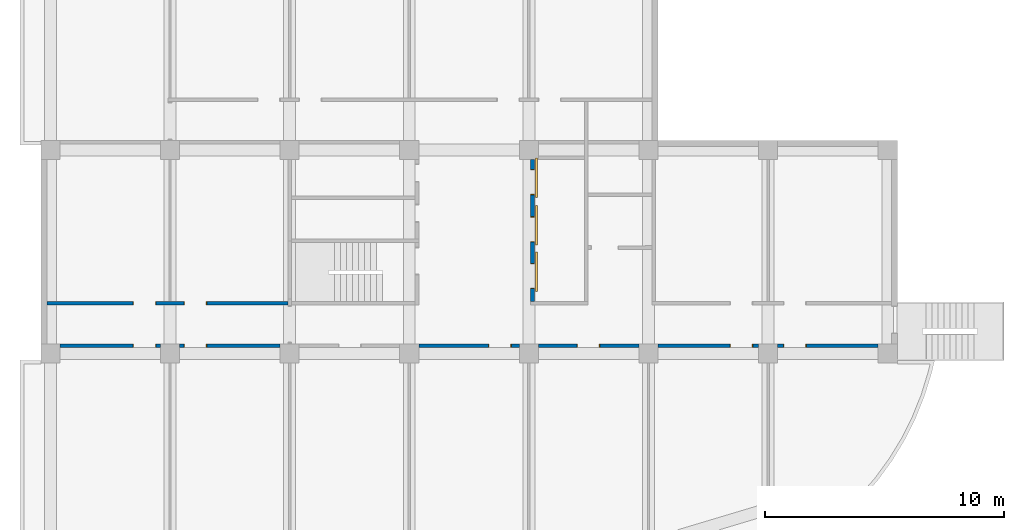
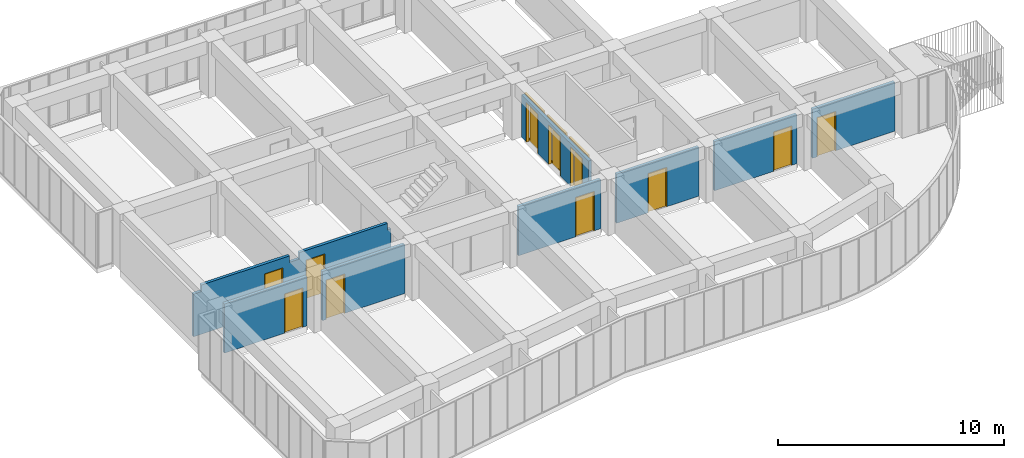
# One storey, part 3 of 5: 11 doors, 4 walls, 11 openings.
"""IFC2X3 building model written with IfcOpenShell, lengths in millimetres."""

from ifc_helpers import new_model, entity, si_unit, converted_unit, derived_unit, money_unit, direction, frame, origin_with_axes, place, context, subcontext, project, spatial, open_shell, faceted_brep, surface_model, source, transform, mapped, material, type_object, element, fill, save


model = new_model("IFC2X3")

# Units and contexts
model_context = context("Model", 3, precision=0.01, world=origin_with_axes(), true_north=direction((0.0, 1.0)))
body_context = subcontext(model_context, "Body", "Model", "MODEL_VIEW")
ifc_project = project(units=[si_unit("LENGTHUNIT", "METRE", prefix="MILLI"), si_unit("AREAUNIT", "SQUARE_METRE"), si_unit("VOLUMEUNIT", "CUBIC_METRE"), converted_unit("PLANEANGLEUNIT", "DEGREE", entity("IfcPlaneAngleMeasure", 0.0174532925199), si_unit("PLANEANGLEUNIT", "RADIAN"), dimensions=[0, 0, 0, 0, 0, 0, 0]), si_unit("SOLIDANGLEUNIT", "STERADIAN"), money_unit("JPY"), converted_unit("TIMEUNIT", "Year", entity("IfcTimeMeasure", 31556926.0), si_unit("TIMEUNIT", "SECOND"), dimensions=[0, 0, 1, 0, 0, 0, 0]), si_unit("MASSUNIT", "GRAM", prefix="KILO"), si_unit("THERMODYNAMICTEMPERATUREUNIT", "DEGREE_CELSIUS"), si_unit("LUMINOUSINTENSITYUNIT", "LUMEN"), si_unit("ENERGYUNIT", "JOULE", prefix="MEGA"), derived_unit("THERMALCONDUCTANCEUNIT", [(si_unit("POWERUNIT", "WATT"), 1), (si_unit("LENGTHUNIT", "METRE"), -1), (si_unit("THERMODYNAMICTEMPERATUREUNIT", "KELVIN"), -1)]), derived_unit("SPECIFICHEATCAPACITYUNIT", [(si_unit("ENERGYUNIT", "JOULE"), 1), (si_unit("MASSUNIT", "GRAM", prefix="KILO"), -1), (si_unit("THERMODYNAMICTEMPERATUREUNIT", "KELVIN"), -1)]), derived_unit("MASSDENSITYUNIT", [(si_unit("MASSUNIT", "GRAM", prefix="KILO"), 1), (si_unit("VOLUMEUNIT", "CUBIC_METRE"), -1)])], contexts=[model_context])

# Site, building, storey
site_placement = place(None, origin_with_axes())
site = spatial("IfcSite", under=ifc_project, at=site_placement, Name="サイト", CompositionType="ELEMENT")
building_placement = place(site_placement, origin_with_axes())
building = spatial("IfcBuilding", under=site, at=building_placement, Name="建築", CompositionType="ELEMENT")
storey_placement = place(building_placement, frame((0.0, 0.0, 9000.0), z_axis=(0.0, 0.0, 1.0), x_axis=(1.0, 0.0, 0.0)))
storey = spatial("IfcBuildingStorey", under=building, at=storey_placement, Name="4FL", CompositionType="ELEMENT", Elevation=9000.0)

# Wall, openings, doors
ifc_material = material(Name="コンクリート")
wall_type = type_object("IfcWallType", Name="コンクリート 150", PredefinedType="NOTDEFINED")
wall_1_placement = place(storey_placement, frame((-275.00006329, 2100.0, 0.0), z_axis=(0.0, 0.0, 1.0), x_axis=(1.0, 0.0, 0.0)))
wall_1 = element("IfcWall", 1, at=wall_1_placement, inside=storey, type_object=wall_type, material=ifc_material, Name="4FLW3", context=body_context, shape_type="Brep", body=[
    faceted_brep([(5860.00006329, 75.0, 2130.0), (5860.00006329, 75.0, 0.0), (4690.00006329, 75.0, 0.0), (4690.00006329, 75.0, 2130.0), (3730.00006329, 75.0, 2130.0), (3730.00006329, 75.0, 0.0), (125.0, 75.0, 0.0), (125.0, 75.0, 2300.0), (525.00006329, 75.0, 2300.0), (525.00006329, 75.0, 2650.0), (5025.00006329, 75.0, 2650.0), (5025.00006329, 75.0, 2300.0), (5525.00006329, 75.0, 2300.0), (5525.00006329, 75.0, 2650.0), (10025.0000633, 75.0, 2650.0), (10025.0000633, 75.0, 2300.0), (10200.0000633, 75.0, 2300.0), (10200.0000633, 75.0, 0.0), (6820.00006329, 75.0, 0.0), (6820.00006329, 75.0, 2130.0), (5860.00006329, -75.0, 2130.0), (5860.00006329, -75.0, 0.0), (4690.00006329, -75.0, 0.0), (4690.00006329, -75.0, 2130.0), (3730.00006329, -75.0, 2130.0), (3730.00006329, -75.0, 0.0), (125.0, -75.0, 0.0), (125.0, -75.0, 2300.0), (525.00006329, -75.0, 2300.0), (525.00006329, -75.0, 2650.0), (5025.00006329, -75.0, 2650.0), (5025.00006329, -75.0, 2300.0), (5525.00006329, -75.0, 2300.0), (5525.00006329, -75.0, 2650.0), (10025.0000633, -75.0, 2650.0), (10025.0000633, -75.0, 2300.0), (10200.0000633, -75.0, 2300.0), (10200.0000633, -75.0, 0.0), (6820.00006329, -75.0, 0.0), (6820.00006329, -75.0, 2130.0)], [[[0, 1, 2, 3, 4, 5, 6, 7, 8, 9, 10, 11, 12, 13, 14, 15, 16, 17, 18, 19]], [[1, 0, 20, 21]], [[1, 21, 22, 2]], [[2, 22, 23, 3]], [[3, 23, 24, 4]], [[4, 24, 25, 5]], [[25, 26, 6, 5]], [[7, 6, 26, 27]], [[7, 27, 28, 8]], [[9, 8, 28, 29]], [[29, 30, 10, 9]], [[10, 30, 31, 11]], [[11, 31, 32, 12]], [[13, 12, 32, 33]], [[33, 34, 14, 13]], [[14, 34, 35, 15]], [[16, 15, 35, 36]], [[36, 37, 17, 16]], [[38, 18, 17, 37]], [[19, 18, 38, 39]], [[0, 19, 39, 20]], [[39, 38, 37, 36, 35, 34, 33, 32, 31, 30, 29, 28, 27, 26, 25, 24, 23, 22, 21, 20]]]),
])
opening_1_placement = place(wall_1_placement, frame((4210.00006329, 0.0, 0.0), z_axis=(0.0, 0.0, 1.0), x_axis=(1.0, 0.0, 0.0)))
opening_1 = element("IfcOpeningElement", 2, at=opening_1_placement, cuts=wall_1, Name="4FLSD0", context=body_context, shape_type="Brep", body=[
    faceted_brep([(-480.0, -160.0, 0.0), (-480.0, -160.0, 2130.0), (-480.0, 160.0, 2130.0), (-480.0, 160.0, 0.0), (480.0, -160.0, 0.0), (480.0, -160.0, 2130.0), (480.0, 160.0, 2130.0), (480.0, 160.0, 0.0)], [[[0, 1, 2, 3]], [[0, 4, 5, 1]], [[1, 5, 6, 2]], [[3, 2, 6, 7]], [[4, 0, 3, 7]], [[5, 4, 7, 6]]]),
])
opening_2_placement = place(wall_1_placement, frame((6340.00006329, 0.0, 0.0), z_axis=(0.0, 0.0, 1.0), x_axis=(1.0, 0.0, 0.0)))
opening_2 = element("IfcOpeningElement", 3, at=opening_2_placement, cuts=wall_1, Name="4FLSD1", context=body_context, shape_type="Brep", body=[
    faceted_brep([(480.0, 160.0, 0.0), (480.0, 160.0, 2130.0), (480.0, -160.0, 2130.0), (480.0, -160.0, 0.0), (-480.0, 160.0, 0.0), (-480.0, 160.0, 2130.0), (-480.0, -160.0, 2130.0), (-480.0, -160.0, 0.0)], [[[0, 1, 2, 3]], [[0, 4, 5, 1]], [[1, 5, 6, 2]], [[3, 2, 6, 7]], [[4, 0, 3, 7]], [[5, 4, 7, 6]]]),
])
door_style_1 = type_object("IfcDoorStyle", Name="片開き戸", ConstructionType="NOTDEFINED", OperationType="NOTDEFINED", ParameterTakesPrecedence=False, Sizeable=False)
shared_shape_1 = source(origin_with_axes(), body_context, "Body", "SurfaceModel", [
    surface_model("IfcShellBasedSurfaceModel", [(-450.0, -85.0, 0.0), (-450.0, -85.0, 2100.0), (450.0, -85.0, 2100.0), (450.0, -85.0, 0.0)], [open_shell([[[0, 1, 2, 3]]])]),
    surface_model("IfcShellBasedSurfaceModel", [(-480.0, -10.0, 0.0), (-480.0, -10.0, 2130.0), (480.0, -10.0, 2130.0), (480.0, -10.0, 0.0), (450.0, -10.0, 0.0), (450.0, -10.0, 2100.0), (-450.0, -10.0, 2100.0), (-450.0, -10.0, 0.0)], [open_shell([[[0, 1, 2, 3, 4, 5, 6, 7]]])]),
    surface_model("IfcShellBasedSurfaceModel", [(-480.0, -160.0, 0.0), (-480.0, -160.0, 2130.0), (480.0, -160.0, 2130.0), (480.0, -160.0, 0.0), (450.0, -160.0, 0.0), (450.0, -160.0, 2100.0), (-450.0, -160.0, 2100.0), (-450.0, -160.0, 0.0)], [open_shell([[[0, 1, 2, 3, 4, 5, 6, 7]]])]),
    surface_model("IfcShellBasedSurfaceModel", [(-450.0, -10.0, 0.0), (-450.0, -10.0, 2100.0), (-450.0, -160.0, 2100.0), (-450.0, -160.0, 0.0), (450.0, -10.0, 2100.0), (450.0, -160.0, 2100.0), (-480.0, -10.0, 0.0), (-480.0, -160.0, 0.0), (450.0, -10.0, 0.0), (450.0, -160.0, 0.0), (-480.0, -10.0, 2130.0), (-480.0, -160.0, 2130.0), (480.0, -10.0, 0.0), (480.0, -160.0, 0.0), (480.0, -10.0, 2130.0), (480.0, -160.0, 2130.0)], [open_shell([[[0, 1, 2, 3]], [[1, 4, 5, 2]], [[6, 0, 3, 7]], [[4, 8, 9, 5]], [[10, 6, 7, 11]], [[8, 12, 13, 9]], [[14, 10, 11, 15]], [[12, 14, 15, 13]]])]),
])
door_1_placement = place(opening_1_placement, frame((-450.0, 0.0, 0.0), z_axis=(0.0, 0.0, 1.0), x_axis=(1.0, 0.0, 0.0)))
door_1 = element("IfcDoor", 4, at=door_1_placement, inside=storey, type_object=door_style_1, Name="4FLSD0", OverallHeight=2165.0, OverallWidth=1030.0, context=body_context, shape_type="MappedRepresentation", body=[
    mapped(shared_shape_1, transform((450.0, 85.0, 0.0))),
])
fill(opening_1, door_1)
shared_shape_2 = source(origin_with_axes(), body_context, "Body", "SurfaceModel", [
    surface_model("IfcShellBasedSurfaceModel", [(450.0, -85.0, 0.0), (-450.0, -85.0, 0.0), (-450.0, -85.0, 2100.0), (450.0, -85.0, 2100.0)], [open_shell([[[0, 1, 2, 3]]])]),
    surface_model("IfcShellBasedSurfaceModel", [(480.0, -10.0, 0.0), (450.0, -10.0, 0.0), (450.0, -10.0, 2100.0), (-450.0, -10.0, 2100.0), (-450.0, -10.0, 0.0), (-480.0, -10.0, 0.0), (-480.0, -10.0, 2130.0), (480.0, -10.0, 2130.0)], [open_shell([[[0, 1, 2, 3, 4, 5, 6, 7]]])]),
    surface_model("IfcShellBasedSurfaceModel", [(480.0, -160.0, 0.0), (450.0, -160.0, 0.0), (450.0, -160.0, 2100.0), (-450.0, -160.0, 2100.0), (-450.0, -160.0, 0.0), (-480.0, -160.0, 0.0), (-480.0, -160.0, 2130.0), (480.0, -160.0, 2130.0)], [open_shell([[[0, 1, 2, 3, 4, 5, 6, 7]]])]),
    surface_model("IfcShellBasedSurfaceModel", [(450.0, -10.0, 0.0), (450.0, -160.0, 0.0), (450.0, -160.0, 2100.0), (450.0, -10.0, 2100.0), (480.0, -10.0, 0.0), (480.0, -160.0, 0.0), (-450.0, -160.0, 2100.0), (-450.0, -10.0, 2100.0), (480.0, -10.0, 2130.0), (480.0, -160.0, 2130.0), (-450.0, -160.0, 0.0), (-450.0, -10.0, 0.0), (-480.0, -10.0, 2130.0), (-480.0, -160.0, 2130.0), (-480.0, -160.0, 0.0), (-480.0, -10.0, 0.0)], [open_shell([[[0, 1, 2, 3]], [[4, 5, 1, 0]], [[3, 2, 6, 7]], [[8, 9, 5, 4]], [[7, 6, 10, 11]], [[12, 13, 9, 8]], [[11, 10, 14, 15]], [[15, 14, 13, 12]]])]),
])
door_2_placement = place(opening_2_placement, frame((-450.0, 0.0, 0.0), z_axis=(0.0, 0.0, 1.0), x_axis=(1.0, 0.0, 0.0)))
door_2 = element("IfcDoor", 5, at=door_2_placement, inside=storey, type_object=door_style_1, Name="4FLSD1", OverallHeight=2165.0, OverallWidth=1030.0, context=body_context, shape_type="MappedRepresentation", body=[
    mapped(shared_shape_2, transform((450.0, 85.0, 0.0))),
])
fill(opening_2, door_2)

wall_2_placement = place(storey_placement, frame((10000.0, 324.999998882, 0.0), z_axis=(0.0, 0.0, 1.0), x_axis=(-1.0, 0.0, 0.0)))
wall_2 = element("IfcWall", 6, at=wall_2_placement, inside=storey, type_object=wall_type, material=ifc_material, Name="4FLW4", context=body_context, shape_type="Brep", body=[
    faceted_brep([(6545.0, -75.0000011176, 2130.0), (6545.0, -75.0000011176, 0.0), (9600.0, -75.0000011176, 0.0), (9600.0, -75.0000011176, 2650.0), (5400.0, -75.0000011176, 2650.0), (5400.0, -75.0000011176, 0.0), (5585.0, -75.0000011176, 0.0), (5585.0, -75.0000011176, 2130.0), (6545.0, 74.9999988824, 2130.0), (6545.0, 75.0, 0.0), (9600.0, 75.0, 0.0), (9600.0, 74.9999988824, 2650.0), (5400.0, 74.9999988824, 2650.0), (5400.0, 75.0, 0.0), (5585.0, 75.0, 0.0), (5585.0, 74.9999988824, 2130.0)], [[[0, 1, 2, 3, 4, 5, 6, 7]], [[1, 0, 8, 9]], [[1, 9, 10, 2]], [[11, 3, 2, 10]], [[3, 11, 12, 4]], [[5, 4, 12, 13]], [[14, 6, 5, 13]], [[7, 6, 14, 15]], [[0, 7, 15, 8]], [[15, 14, 13, 12, 11, 10, 9, 8]]]),
    faceted_brep([(4415.0, -75.0000011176, 2130.0), (4415.0, -75.0000011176, 0.0), (4600.0, -75.0000011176, 0.0), (4600.0, -75.0000011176, 2650.0), (400.0, -75.0000011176, 2650.0), (400.0, -75.0000011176, 0.0), (3455.0, -75.0000011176, 0.0), (3455.0, -75.0000011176, 2130.0), (4415.0, 74.9999988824, 2130.0), (4415.0, 75.0, 0.0), (4600.0, 75.0, 0.0), (4600.0, 74.9999988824, 2650.0), (400.0, 74.9999988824, 2650.0), (400.0, 75.0, 0.0), (3455.0, 75.0, 0.0), (3455.0, 74.9999988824, 2130.0)], [[[0, 1, 2, 3, 4, 5, 6, 7]], [[1, 0, 8, 9]], [[1, 9, 10, 2]], [[11, 3, 2, 10]], [[3, 11, 12, 4]], [[5, 4, 12, 13]], [[14, 6, 5, 13]], [[7, 6, 14, 15]], [[0, 7, 15, 8]], [[15, 14, 13, 12, 11, 10, 9, 8]]]),
])
opening_3_placement = place(wall_2_placement, frame((6065.0, 0.0, 0.0), z_axis=(0.0, 0.0, 1.0), x_axis=(1.0, 0.0, 0.0)))
opening_3 = element("IfcOpeningElement", 7, at=opening_3_placement, cuts=wall_2, Name="4FLSD9", context=body_context, shape_type="Brep", body=[
    faceted_brep([(480.0, 160.0, 0.0), (480.0, 160.0, 2130.0), (480.0, -160.0, 2130.0), (480.0, -160.0, 0.0), (-480.0, 160.0, 0.0), (-480.0, 160.0, 2130.0), (-480.0, -160.0, 2130.0), (-480.0, -160.0, 0.0)], [[[0, 1, 2, 3]], [[0, 4, 5, 1]], [[1, 5, 6, 2]], [[3, 2, 6, 7]], [[4, 0, 3, 7]], [[5, 4, 7, 6]]]),
])
opening_4_placement = place(wall_2_placement, frame((3935.0, 0.0, 0.0), z_axis=(0.0, 0.0, 1.0), x_axis=(1.0, 0.0, 0.0)))
opening_4 = element("IfcOpeningElement", 8, at=opening_4_placement, cuts=wall_2, Name="4FLSD9", context=body_context, shape_type="Brep", body=[
    faceted_brep([(-480.0, -160.0, 0.0), (-480.0, -160.0, 2130.0), (-480.0, 160.0, 2130.0), (-480.0, 160.0, 0.0), (480.0, -160.0, 0.0), (480.0, -160.0, 2130.0), (480.0, 160.0, 2130.0), (480.0, 160.0, 0.0)], [[[0, 1, 2, 3]], [[0, 4, 5, 1]], [[1, 5, 6, 2]], [[3, 2, 6, 7]], [[4, 0, 3, 7]], [[5, 4, 7, 6]]]),
])
door_3_placement = place(opening_4_placement, frame((-450.0, 0.0, 0.0), z_axis=(0.0, 0.0, 1.0), x_axis=(1.0, 0.0, 0.0)))
door_3 = element("IfcDoor", 9, at=door_3_placement, inside=storey, type_object=door_style_1, Name="4FLSD9", OverallHeight=2165.0, OverallWidth=1030.0, context=body_context, shape_type="MappedRepresentation", body=[
    mapped(shared_shape_1, transform((450.0, 85.0, 0.0))),
])
fill(opening_4, door_3)
door_4_placement = place(opening_3_placement, frame((-450.0, 0.0, 0.0), z_axis=(0.0, 0.0, 1.0), x_axis=(1.0, 0.0, 0.0)))
door_4 = element("IfcDoor", 10, at=door_4_placement, inside=storey, type_object=door_style_1, Name="4FLSD9", OverallHeight=2165.0, OverallWidth=1030.0, context=body_context, shape_type="MappedRepresentation", body=[
    mapped(shared_shape_2, transform((450.0, 85.0, 0.0))),
])
fill(opening_3, door_4)

wall_3_placement = place(storey_placement, frame((15000.0, 325.000021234, 0.0), z_axis=(0.0, 0.0, 1.0), x_axis=(1.0, 0.0, 0.0)))
wall_3 = element("IfcWall", 11, at=wall_3_placement, inside=storey, type_object=wall_type, material=ifc_material, Name="4FLW5", context=body_context, shape_type="Brep", body=[
    faceted_brep([(3305.0, 74.9999787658, 2130.0), (3305.0, 74.9999787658, 0.0), (400.0, 74.9999787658, 0.0), (400.0, 74.9999787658, 2650.0), (4600.0, 74.9999787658, 2650.0), (4600.0, 74.9999787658, 0.0), (4265.0, 74.9999787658, 0.0), (4265.0, 74.9999787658, 2130.0), (3305.0, -75.0000212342, 2130.0), (3305.0, -75.0, 0.0), (400.0, -75.0, 0.0), (400.0, -75.0000212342, 2650.0), (4600.0, -75.0000212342, 2650.0), (4600.0, -75.0, 0.0), (4265.0, -75.0, 0.0), (4265.0, -75.0000212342, 2130.0)], [[[0, 1, 2, 3, 4, 5, 6, 7]], [[1, 0, 8, 9]], [[1, 9, 10, 2]], [[11, 3, 2, 10]], [[3, 11, 12, 4]], [[5, 4, 12, 13]], [[14, 6, 5, 13]], [[7, 6, 14, 15]], [[0, 7, 15, 8]], [[15, 14, 13, 12, 11, 10, 9, 8]]]),
    faceted_brep([(15635.0, 74.9999787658, 2130.0), (15635.0, 74.9999787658, 0.0), (15400.0, 74.9999787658, 0.0), (15400.0, 74.9999787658, 2650.0), (19600.0, 74.9999787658, 2650.0), (19600.0, 74.9999787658, 0.0), (16595.0, 74.9999787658, 0.0), (16595.0, 74.9999787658, 2130.0), (15635.0, -75.0000212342, 2130.0), (15635.0, -75.0, 0.0), (15400.0, -75.0, 0.0), (15400.0, -75.0000212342, 2650.0), (19600.0, -75.0000212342, 2650.0), (19600.0, -75.0, 0.0), (16595.0, -75.0, 0.0), (16595.0, -75.0000212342, 2130.0)], [[[0, 1, 2, 3, 4, 5, 6, 7]], [[1, 0, 8, 9]], [[1, 9, 10, 2]], [[11, 3, 2, 10]], [[3, 11, 12, 4]], [[5, 4, 12, 13]], [[14, 6, 5, 13]], [[7, 6, 14, 15]], [[0, 7, 15, 8]], [[15, 14, 13, 12, 11, 10, 9, 8]]]),
    faceted_brep([(13405.0, 74.9999787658, 2130.0), (13405.0, 74.9999787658, 0.0), (10400.0, 74.9999787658, 0.0), (10400.0, 74.9999787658, 2650.0), (14600.0, 74.9999787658, 2650.0), (14600.0, 74.9999787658, 0.0), (14365.0, 74.9999787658, 0.0), (14365.0, 74.9999787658, 2130.0), (13405.0, -75.0000212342, 2130.0), (13405.0, -75.0, 0.0), (10400.0, -75.0, 0.0), (10400.0, -75.0000212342, 2650.0), (14600.0, -75.0000212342, 2650.0), (14600.0, -75.0, 0.0), (14365.0, -75.0, 0.0), (14365.0, -75.0000212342, 2130.0)], [[[0, 1, 2, 3, 4, 5, 6, 7]], [[1, 0, 8, 9]], [[1, 9, 10, 2]], [[11, 3, 2, 10]], [[3, 11, 12, 4]], [[5, 4, 12, 13]], [[14, 6, 5, 13]], [[7, 6, 14, 15]], [[0, 7, 15, 8]], [[15, 14, 13, 12, 11, 10, 9, 8]]]),
    faceted_brep([(7005.0, 74.9999787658, 2130.0), (7005.0, 74.9999787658, 0.0), (5400.0, 74.9999787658, 0.0), (5400.0, 74.9999787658, 2650.0), (9600.0, 74.9999787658, 2650.0), (9600.0, 74.9999787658, 0.0), (7965.0, 74.9999787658, 0.0), (7965.0, 74.9999787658, 2130.0), (7005.0, -75.0000212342, 2130.0), (7005.0, -75.0, 0.0), (5400.0, -75.0, 0.0), (5400.0, -75.0000212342, 2650.0), (9600.0, -75.0000212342, 2650.0), (9600.0, -75.0, 0.0), (7965.0, -75.0, 0.0), (7965.0, -75.0000212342, 2130.0)], [[[0, 1, 2, 3, 4, 5, 6, 7]], [[1, 0, 8, 9]], [[1, 9, 10, 2]], [[11, 3, 2, 10]], [[3, 11, 12, 4]], [[5, 4, 12, 13]], [[14, 6, 5, 13]], [[7, 6, 14, 15]], [[0, 7, 15, 8]], [[15, 14, 13, 12, 11, 10, 9, 8]]]),
])
opening_5_placement = place(wall_3_placement, frame((3785.0, 0.0, 0.0), z_axis=(0.0, 0.0, 1.0), x_axis=(1.0, 0.0, 0.0)))
opening_5 = element("IfcOpeningElement", 12, at=opening_5_placement, cuts=wall_3, Name="4FLSD5", context=body_context, shape_type="Brep", body=[
    faceted_brep([(-480.0, -160.0, 0.0), (-480.0, -160.0, 2130.0), (-480.0, 160.0, 2130.0), (-480.0, 160.0, 0.0), (480.0, -160.0, 0.0), (480.0, -160.0, 2130.0), (480.0, 160.0, 2130.0), (480.0, 160.0, 0.0)], [[[0, 1, 2, 3]], [[0, 4, 5, 1]], [[1, 5, 6, 2]], [[3, 2, 6, 7]], [[4, 0, 3, 7]], [[5, 4, 7, 6]]]),
])
opening_6_placement = place(wall_3_placement, frame((7485.0, 0.0, 0.0), z_axis=(0.0, 0.0, 1.0), x_axis=(1.0, 0.0, 0.0)))
opening_6 = element("IfcOpeningElement", 13, at=opening_6_placement, cuts=wall_3, Name="4FLSD6", context=body_context, shape_type="Brep", body=[
    faceted_brep([(-480.0, -160.0, 0.0), (-480.0, -160.0, 2130.0), (-480.0, 160.0, 2130.0), (-480.0, 160.0, 0.0), (480.0, -160.0, 0.0), (480.0, -160.0, 2130.0), (480.0, 160.0, 2130.0), (480.0, 160.0, 0.0)], [[[0, 1, 2, 3]], [[0, 4, 5, 1]], [[1, 5, 6, 2]], [[3, 2, 6, 7]], [[4, 0, 3, 7]], [[5, 4, 7, 6]]]),
])
opening_7_placement = place(wall_3_placement, frame((13885.0, 0.0, 0.0), z_axis=(0.0, 0.0, 1.0), x_axis=(1.0, 0.0, 0.0)))
opening_7 = element("IfcOpeningElement", 14, at=opening_7_placement, cuts=wall_3, Name="4FLSD6", context=body_context, shape_type="Brep", body=[
    faceted_brep([(-480.0, -160.0, 0.0), (-480.0, -160.0, 2130.0), (-480.0, 160.0, 2130.0), (-480.0, 160.0, 0.0), (480.0, -160.0, 0.0), (480.0, -160.0, 2130.0), (480.0, 160.0, 2130.0), (480.0, 160.0, 0.0)], [[[0, 1, 2, 3]], [[0, 4, 5, 1]], [[1, 5, 6, 2]], [[3, 2, 6, 7]], [[4, 0, 3, 7]], [[5, 4, 7, 6]]]),
])
opening_8_placement = place(wall_3_placement, frame((16115.0, 0.0, 0.0), z_axis=(0.0, 0.0, 1.0), x_axis=(1.0, 0.0, 0.0)))
opening_8 = element("IfcOpeningElement", 15, at=opening_8_placement, cuts=wall_3, Name="4FLSD7", context=body_context, shape_type="Brep", body=[
    faceted_brep([(480.0, 160.0, 0.0), (480.0, 160.0, 2130.0), (480.0, -160.0, 2130.0), (480.0, -160.0, 0.0), (-480.0, 160.0, 0.0), (-480.0, 160.0, 2130.0), (-480.0, -160.0, 2130.0), (-480.0, -160.0, 0.0)], [[[0, 1, 2, 3]], [[0, 4, 5, 1]], [[1, 5, 6, 2]], [[3, 2, 6, 7]], [[4, 0, 3, 7]], [[5, 4, 7, 6]]]),
])
door_5_placement = place(opening_8_placement, frame((450.0, 0.0, 0.0), z_axis=(0.0, 0.0, 1.0), x_axis=(-1.0, 0.0, 0.0)))
door_5 = element("IfcDoor", 16, at=door_5_placement, inside=storey, type_object=door_style_1, Name="4FLSD7", OverallHeight=2165.0, OverallWidth=1030.0, context=body_context, shape_type="MappedRepresentation", body=[
    mapped(shared_shape_1, transform((450.0, 85.0, 0.0))),
])
fill(opening_8, door_5)
door_6_placement = place(opening_5_placement, frame((450.0, 0.0, 0.0), z_axis=(0.0, 0.0, 1.0), x_axis=(-1.0, 0.0, 0.0)))
door_6 = element("IfcDoor", 17, at=door_6_placement, inside=storey, type_object=door_style_1, Name="4FLSD5", OverallHeight=2165.0, OverallWidth=1030.0, context=body_context, shape_type="MappedRepresentation", body=[
    mapped(shared_shape_2, transform((450.0, 85.0, 0.0))),
])
fill(opening_5, door_6)
door_7_placement = place(opening_7_placement, frame((450.0, 0.0, 0.0), z_axis=(0.0, 0.0, 1.0), x_axis=(-1.0, 0.0, 0.0)))
door_7 = element("IfcDoor", 18, at=door_7_placement, inside=storey, type_object=door_style_1, Name="4FLSD6", OverallHeight=2165.0, OverallWidth=1030.0, context=body_context, shape_type="MappedRepresentation", body=[
    mapped(shared_shape_2, transform((450.0, 85.0, 0.0))),
])
fill(opening_7, door_7)
shared_shape_3 = source(origin_with_axes(), body_context, "Body", "SurfaceModel", [
    surface_model("IfcShellBasedSurfaceModel", [(450.0, 85.0, 0.0), (-450.0, 85.0, 0.0), (-450.0, 85.0, 2100.0), (450.0, 85.0, 2100.0)], [open_shell([[[0, 1, 2, 3]]])]),
    surface_model("IfcShellBasedSurfaceModel", [(480.0, 160.0, 0.0), (450.0, 160.0, 0.0), (450.0, 160.0, 2100.0), (-450.0, 160.0, 2100.0), (-450.0, 160.0, 0.0), (-480.0, 160.0, 0.0), (-480.0, 160.0, 2130.0), (480.0, 160.0, 2130.0)], [open_shell([[[0, 1, 2, 3, 4, 5, 6, 7]]])]),
    surface_model("IfcShellBasedSurfaceModel", [(480.0, 10.0, 0.0), (450.0, 10.0, 0.0), (450.0, 10.0, 2100.0), (-450.0, 10.0, 2100.0), (-450.0, 10.0, 0.0), (-480.0, 10.0, 0.0), (-480.0, 10.0, 2130.0), (480.0, 10.0, 2130.0)], [open_shell([[[0, 1, 2, 3, 4, 5, 6, 7]]])]),
    surface_model("IfcShellBasedSurfaceModel", [(450.0, 160.0, 0.0), (450.0, 10.0, 0.0), (450.0, 10.0, 2100.0), (450.0, 160.0, 2100.0), (480.0, 160.0, 0.0), (480.0, 10.0, 0.0), (-450.0, 10.0, 2100.0), (-450.0, 160.0, 2100.0), (480.0, 160.0, 2130.0), (480.0, 10.0, 2130.0), (-450.0, 10.0, 0.0), (-450.0, 160.0, 0.0), (-480.0, 160.0, 2130.0), (-480.0, 10.0, 2130.0), (-480.0, 10.0, 0.0), (-480.0, 160.0, 0.0)], [open_shell([[[0, 1, 2, 3]], [[4, 5, 1, 0]], [[3, 2, 6, 7]], [[8, 9, 5, 4]], [[7, 6, 10, 11]], [[12, 13, 9, 8]], [[11, 10, 14, 15]], [[15, 14, 13, 12]]])]),
])
door_8_placement = place(opening_6_placement, frame((450.0, 0.0, 0.0), z_axis=(0.0, 0.0, 1.0), x_axis=(-1.0, 0.0, 0.0)))
door_8 = element("IfcDoor", 19, at=door_8_placement, inside=storey, type_object=door_style_1, Name="4FLSD6", OverallHeight=2165.0, OverallWidth=1030.0, context=body_context, shape_type="MappedRepresentation", body=[
    mapped(shared_shape_3, transform((450.0, -85.0, 0.0))),
])
fill(opening_6, door_8)

wall_4_placement = place(storey_placement, frame((20150.0, 2100.0, 0.0), z_axis=(0.0, 0.0, 1.0), x_axis=(0.0, 1.0, 0.0)))
wall_4 = element("IfcWall", 20, at=wall_4_placement, inside=storey, type_object=wall_type, material=ifc_material, Name="4FLW6", context=body_context, shape_type="Brep", body=[
    faceted_brep([(605.0, -75.0, 0.0), (605.0, -75.0, 2130.0), (1665.0, -75.0, 2130.0), (1665.0, -75.0, 0.0), (2554.97613952, -75.0, 0.0), (2554.97613952, -75.0, 2130.0), (3614.97613952, -75.0, 2130.0), (3614.97613952, -75.0, 0.0), (4530.0, -75.0, 0.0), (4530.0, -75.0, 2130.0), (5590.0, -75.0, 2130.0), (5590.0, -75.0, 0.0), (6000.0, -75.0, 0.0), (6000.0, -75.0, 2300.0), (75.0, -75.0, 2300.0), (75.0, -75.0, 0.0), (605.0, 75.0, 0.0), (605.0, 75.0, 2130.0), (1665.0, 75.0, 2130.0), (1665.0, 75.0, 0.0), (2554.97613952, 75.0, 0.0), (2554.97613952, 75.0, 2130.0), (3614.97613952, 75.0, 2130.0), (3614.97613952, 75.0, 0.0), (4530.0, 75.0, 0.0), (4530.0, 75.0, 2130.0), (5590.0, 75.0, 2130.0), (5590.0, 75.0, 0.0), (6000.0, 75.0, 0.0), (6000.0, 75.0, 2300.0), (75.0, 75.0, 2300.0), (75.0, 75.0, 0.0)], [[[0, 1, 2, 3, 4, 5, 6, 7, 8, 9, 10, 11, 12, 13, 14, 15]], [[1, 0, 16, 17]], [[2, 1, 17, 18]], [[3, 2, 18, 19]], [[3, 19, 20, 4]], [[4, 20, 21, 5]], [[5, 21, 22, 6]], [[6, 22, 23, 7]], [[23, 24, 8, 7]], [[24, 25, 9, 8]], [[25, 26, 10, 9]], [[26, 27, 11, 10]], [[28, 12, 11, 27]], [[12, 28, 29, 13]], [[30, 14, 13, 29]], [[30, 31, 15, 14]], [[16, 0, 15, 31]], [[17, 16, 31, 30, 29, 28, 27, 26, 25, 24, 23, 22, 21, 20, 19, 18]]]),
])
opening_9_placement = place(wall_4_placement, frame((5060.0, 0.0, 0.0), z_axis=(0.0, 0.0, 1.0), x_axis=(1.0, 0.0, 0.0)))
opening_9 = element("IfcOpeningElement", 21, at=opening_9_placement, cuts=wall_4, Name="4FLSD5", context=body_context, shape_type="Brep", body=[
    faceted_brep([(-530.0, -150.0, 0.0), (-530.0, -150.0, 2130.0), (-530.0, 150.0, 2130.0), (-530.0, 150.0, 0.0), (530.0, -150.0, 0.0), (530.0, -150.0, 2130.0), (530.0, 150.0, 2130.0), (530.0, 150.0, 0.0)], [[[0, 1, 2, 3]], [[0, 4, 5, 1]], [[1, 5, 6, 2]], [[3, 2, 6, 7]], [[4, 0, 3, 7]], [[5, 4, 7, 6]]]),
])
opening_10_placement = place(wall_4_placement, frame((3084.97613952, 0.0, 0.0), z_axis=(0.0, 0.0, 1.0), x_axis=(1.0, 0.0, 0.0)))
opening_10 = element("IfcOpeningElement", 22, at=opening_10_placement, cuts=wall_4, Name="4FLSD5", context=body_context, shape_type="Brep", body=[
    faceted_brep([(-530.0, -150.0, 0.0), (-530.0, -150.0, 2130.0), (-530.0, 150.0, 2130.0), (-530.0, 150.0, 0.0), (530.0, -150.0, 0.0), (530.0, -150.0, 2130.0), (530.0, 150.0, 2130.0), (530.0, 150.0, 0.0)], [[[0, 1, 2, 3]], [[0, 4, 5, 1]], [[1, 5, 6, 2]], [[3, 2, 6, 7]], [[4, 0, 3, 7]], [[5, 4, 7, 6]]]),
])
opening_11_placement = place(wall_4_placement, frame((1135.0, 0.0, 0.0), z_axis=(0.0, 0.0, 1.0), x_axis=(1.0, 0.0, 0.0)))
opening_11 = element("IfcOpeningElement", 23, at=opening_11_placement, cuts=wall_4, Name="4FLSD5", context=body_context, shape_type="Brep", body=[
    faceted_brep([(-530.0, -150.0, 0.0), (-530.0, -150.0, 2130.0), (-530.0, 150.0, 2130.0), (-530.0, 150.0, 0.0), (530.0, -150.0, 0.0), (530.0, -150.0, 2130.0), (530.0, 150.0, 2130.0), (530.0, 150.0, 0.0)], [[[0, 1, 2, 3]], [[0, 4, 5, 1]], [[1, 5, 6, 2]], [[3, 2, 6, 7]], [[4, 0, 3, 7]], [[5, 4, 7, 6]]]),
])
door_style_2 = type_object("IfcDoorStyle", Name="EVドア_小枠タイプ", ConstructionType="NOTDEFINED", OperationType="NOTDEFINED", ParameterTakesPrecedence=False, Sizeable=False)
shared_shape_4 = source(origin_with_axes(), body_context, "Body", "SurfaceModel", [
    surface_model("IfcShellBasedSurfaceModel", [(515.0, -200.5, 0.0), (-15.0, -200.5, 0.0), (-15.0, -200.5, 2100.0), (515.0, -200.5, 2100.0), (350.0, -200.5, 1100.0), (350.0, -200.5, 1800.0), (150.0, -200.5, 1800.0), (150.0, -200.5, 1100.0)], [open_shell([[[0, 1, 2, 3], [4, 5, 6, 7]]])]),
    surface_model("IfcShellBasedSurfaceModel", [(350.0, -200.5, 1100.0), (150.0, -200.5, 1100.0), (150.0, -200.5, 1800.0), (350.0, -200.5, 1800.0)], [open_shell([[[0, 1, 2, 3]]])]),
    surface_model("IfcShellBasedSurfaceModel", [(15.0, -201.5, 0.0), (-515.0, -201.5, 0.0), (-515.0, -201.5, 2100.0), (15.0, -201.5, 2100.0), (-150.0, -201.5, 1100.0), (-150.0, -201.5, 1800.0), (-350.0, -201.5, 1800.0), (-350.0, -201.5, 1100.0)], [open_shell([[[0, 1, 2, 3], [4, 5, 6, 7]]])]),
    surface_model("IfcShellBasedSurfaceModel", [(-150.0, -201.5, 1100.0), (-350.0, -201.5, 1100.0), (-350.0, -201.5, 1800.0), (-150.0, -201.5, 1800.0)], [open_shell([[[0, 1, 2, 3]]])]),
    surface_model("IfcShellBasedSurfaceModel", [(-530.0, 0.0, 0.0), (-530.0, 0.0, 2130.0), (530.0, 0.0, 2130.0), (530.0, 0.0, 0.0), (500.0, 0.0, 0.0), (500.0, 0.0, 2100.0), (-500.0, 0.0, 2100.0), (-500.0, 0.0, 0.0)], [open_shell([[[0, 1, 2, 3, 4, 5, 6, 7]]])]),
    surface_model("IfcShellBasedSurfaceModel", [(-530.0, -150.0, 0.0), (-530.0, -150.0, 2130.0), (530.0, -150.0, 2130.0), (530.0, -150.0, 0.0), (500.0, -150.0, 0.0), (500.0, -150.0, 2100.0), (-500.0, -150.0, 2100.0), (-500.0, -150.0, 0.0)], [open_shell([[[0, 1, 2, 3, 4, 5, 6, 7]]])]),
    surface_model("IfcShellBasedSurfaceModel", [(-500.0, 0.0, 0.0), (-500.0, 0.0, 2100.0), (-500.0, -150.0, 2100.0), (-500.0, -150.0, 0.0), (500.0, 0.0, 2100.0), (500.0, -150.0, 2100.0), (-530.0, 0.0, 0.0), (-530.0, -150.0, 0.0), (500.0, 0.0, 0.0), (500.0, -150.0, 0.0), (-530.0, 0.0, 2130.0), (-530.0, -150.0, 2130.0), (530.0, 0.0, 0.0), (530.0, -150.0, 0.0), (530.0, 0.0, 2130.0), (530.0, -150.0, 2130.0)], [open_shell([[[0, 1, 2, 3]], [[1, 4, 5, 2]], [[6, 0, 3, 7]], [[4, 8, 9, 5]], [[10, 6, 7, 11]], [[8, 12, 13, 9]], [[14, 10, 11, 15]], [[12, 14, 15, 13]]])]),
    faceted_brep([(-645.0, -200.0, 0.0), (-645.0, -200.0, -50.0), (-645.0, -290.0, -50.0), (-645.0, -290.0, 0.0), (1000.0, -200.0, 0.0), (1000.0, -200.0, -50.0), (1000.0, -290.0, -50.0), (1000.0, -290.0, 0.0)], [[[0, 1, 2, 3]], [[0, 4, 5, 1]], [[1, 5, 6, 2]], [[3, 2, 6, 7]], [[4, 0, 3, 7]], [[5, 4, 7, 6]]]),
    faceted_brep([(1000.0, -290.0, 2150.0), (1000.0, -290.0, 2300.0), (-645.0, -290.0, 2300.0), (-645.0, -290.0, 2150.0), (1000.0, -200.0, 2150.0), (1000.0, -200.0, 2300.0), (-645.0, -200.0, 2300.0), (-645.0, -200.0, 2150.0)], [[[0, 1, 2, 3]], [[0, 4, 5, 1]], [[1, 5, 6, 2]], [[3, 2, 6, 7]], [[4, 0, 3, 7]], [[5, 4, 7, 6]]]),
])
door_9_placement = place(opening_9_placement, frame((-500.0, 0.0, 0.0), z_axis=(0.0, 0.0, 1.0), x_axis=(1.0, 0.0, 0.0)))
door_9 = element("IfcDoor", 24, at=door_9_placement, inside=storey, type_object=door_style_2, Name="4FLSD5", OverallHeight=2225.0, OverallWidth=1340.0, context=body_context, shape_type="MappedRepresentation", body=[
    mapped(shared_shape_4, transform((500.0, 75.0, 0.0))),
])
fill(opening_9, door_9)
door_10_placement = place(opening_10_placement, frame((-500.0, 0.0, 0.0), z_axis=(0.0, 0.0, 1.0), x_axis=(1.0, 0.0, 0.0)))
door_10 = element("IfcDoor", 25, at=door_10_placement, inside=storey, type_object=door_style_2, Name="4FLSD5", OverallHeight=2225.0, OverallWidth=1340.0, context=body_context, shape_type="MappedRepresentation", body=[
    mapped(shared_shape_4, transform((500.0, 75.0, 0.0))),
])
fill(opening_10, door_10)
door_11_placement = place(opening_11_placement, frame((-500.0, 0.0, 0.0), z_axis=(0.0, 0.0, 1.0), x_axis=(1.0, 0.0, 0.0)))
door_11 = element("IfcDoor", 26, at=door_11_placement, inside=storey, type_object=door_style_2, Name="4FLSD5", OverallHeight=2225.0, OverallWidth=1340.0, context=body_context, shape_type="MappedRepresentation", body=[
    mapped(shared_shape_4, transform((500.0, 75.0, 0.0))),
])
fill(opening_11, door_11)

save(model, "model.ifc")
